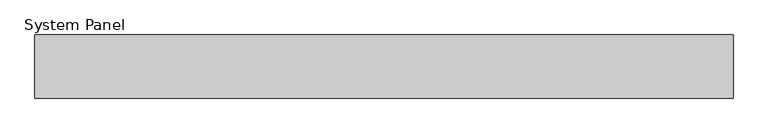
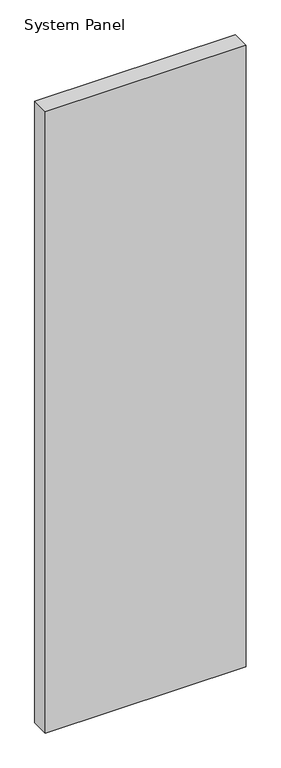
"""IFC4 building model written with IfcOpenShell, lengths in millimetres: plate geometry, System Panel : Inspire 100mm Vertical - Plain RHEA-PIR."""

from ifc_helpers import new_model, si_unit, origin, origin_with_axes, place, context, project, spatial, polyline, outline, extrude, source, transform, mapped, element, save


def system_panel_780dca66(model_context):
    return source(origin(), model_context, "Body", "SweptSolid", [
        extrude(outline(polyline([(550.0, 0.0), (-550.0, 0.0), (-550.0, 100.0), (550.0, 100.0), (550.0, 0.0)])), origin_with_axes(), (0.0, 0.0, 1.0), 3600.0),
    ])


if __name__ == "__main__":
    model = new_model("IFC4")
    model_context = context("Model", 3, world=origin())
    ifc_project = project(units=[si_unit("LENGTHUNIT", "METRE", prefix="MILLI")], contexts=[model_context])
    site = spatial("IfcSite", under=ifc_project)
    building = spatial("IfcBuilding", under=site)
    placement = place(None, origin())
    system_panel_shape = system_panel_780dca66(model_context)
    element("IfcPlate", 1, ObjectType="System Panel : Inspire 100mm Vertical - Plain RHEA-PIR", at=placement, inside=building, context=model_context, shape_type="MappedRepresentation", body=[
        mapped(system_panel_shape, transform((0.0, 0.0, 0.0), x_axis=(1.0, 0.0, 0.0), y_axis=(0.0, 1.0, 0.0), z_axis=(0.0, 0.0, 1.0))),
    ])
    save(model, "model.ifc")
